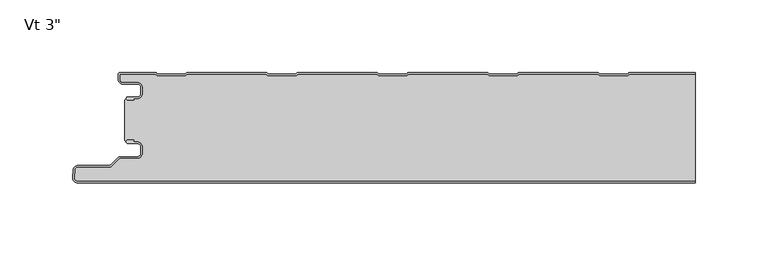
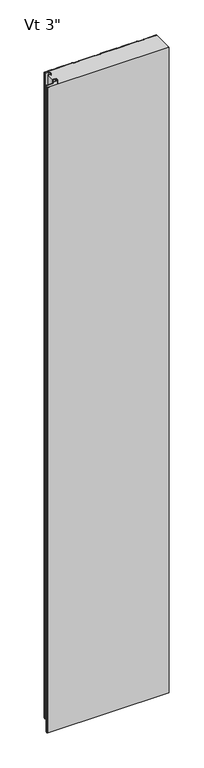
"""IFC4 building model written with IfcOpenShell, lengths in millimetres: plate geometry."""

from ifc_helpers import new_model, si_unit, point, frame, frame_2d, origin, origin_with_axes, place, context, project, spatial, polyline, circle_curve, trimmed, segment, composite_curve, outline, extrude, source, transform, mapped, element, save
from ifc_brep_helpers import plane_surface, cylinder_surface, revolved_surface, advanced_brep


def plate_3ed67b4f(model_context):
    return source(origin(), model_context, "Body", "SolidModel", [
        advanced_brep(
        [(-194.5686911, -17.001516, 2400.0), (-195.5686883, -18.0015192, 2400.0), (-194.5686911, -19.0015105, 2400.0), (-190.5684874, -19.0015105, 2400.0), (-190.5684874, -18.001516, 2400.0), (-187.8762776, -18.001516, 2400.0), (-184.5762819, -14.7015203, 2400.0), (-184.5762819, -10.3015291, 2400.0), (-187.8762774, -7.0015336, 2400.0), (-198.2962563, -7.0015336, 2400.0), (-200.0662505, -5.2315394, 2400.0), (-200.0662505, -0.9999917, 2400.0), (-175.5659739, -0.9999917, 2400.0), (-174.1803313, -2.2002307, 2400.0), (-154.805165, -2.2002307, 2400.0), (-153.419532, -1.0, 2400.0), (-99.3661167, -0.9999999, 2400.0), (-97.9804837, -2.2002306, 2400.0), (-78.6053174, -2.2002306, 2400.0), (-77.2196844, -0.9999999, 2400.0), (-23.1662691, -0.9999998, 2400.0), (-21.7806361, -2.2002305, 2400.0), (-2.4054698, -2.2002304, 2400.0), (-1.0198368, -0.9999997, 2400.0), (53.0335785, -0.9999996, 2400.0), (54.4192115, -2.2002303, 2400.0), (73.7943778, -2.2002303, 2400.0), (75.1800108, -0.9999996, 2400.0), (129.2334261, -0.9999995, 2400.0), (130.6190591, -2.2002302, 2400.0), (149.9942254, -2.2002302, 2400.0), (151.3798584, -0.9999995, 2400.0), (196.5999998, -0.9999994, 2400.0), (196.5999998, 6e-07, 2400.0), (151.5290095, 5e-07, 2400.0), (150.6123926, -0.341788, 2400.0), (149.621345, -1.2002302, 2400.0), (130.9919395, -1.2002302, 2400.0), (130.0008919, -0.341788, 2400.0), (129.084275, 5e-07, 2400.0), (75.3291619, 4e-07, 2400.0), (74.412545, -0.3417881, 2400.0), (73.4214974, -1.2002303, 2400.0), (54.7920919, -1.2002303, 2400.0), (53.8010443, -0.3417881, 2400.0), (52.8844274, 4e-07, 2400.0), (-0.8706857, 3e-07, 2400.0), (-1.7873026, -0.3417882, 2400.0), (-2.7783502, -1.2002304, 2400.0), (-21.4077557, -1.2002305, 2400.0), (-22.3988033, -0.3417883, 2400.0), (-23.3154202, 2e-07, 2400.0), (-77.0705333, 1e-07, 2400.0), (-77.9871502, -0.3417884, 2400.0), (-78.9781978, -1.2002306, 2400.0), (-97.6076033, -1.2002306, 2400.0), (-98.5986509, -0.3417884, 2400.0), (-99.5152678, 1e-07, 2400.0), (-153.2703809, 0.0, 2400.0), (-154.1869978, -0.3417885, 2400.0), (-155.1780454, -1.2002307, 2400.0), (-173.8074509, -1.2002307, 2400.0), (-174.7984985, -0.3417885, 2400.0), (-175.7152068, 0.0, 2400.0), (-199.6662544, 8.3e-06, 2400.0), (-201.0662505, -1.3999879, 2400.0), (-201.0662505, -5.2315394, 2400.0), (-198.2962563, -8.0015336, 2400.0), (-187.8762774, -8.0015336, 2400.0), (-185.5762819, -10.3015291, 2400.0), (-185.5762819, -14.7015203, 2400.0), (-187.8762776, -17.001516, 2400.0), (-194.5686911, -17.001516, 0.0), (-187.8762776, -17.001516, 0.0), (-185.5762819, -14.7015203, 0.0), (-185.5762819, -10.3015291, 0.0), (-187.8762774, -8.0015336, 0.0), (-198.2962563, -8.0015336, 0.0), (-201.0662505, -5.2315394, 0.0), (-201.0662505, -1.3999879, 0.0), (-199.6662544, 8.3e-06, 0.0), (-175.7151154, 8.3e-06, 0.0), (-174.7984985, -0.3417885, 0.0), (-173.8074509, -1.2002307, 0.0), (-155.1780454, -1.2002307, 0.0), (-154.1869978, -0.3417885, 0.0), (-153.2703809, 0.0, 0.0), (-99.5152678, 1e-07, 0.0), (-98.5986509, -0.3417884, 0.0), (-97.6076033, -1.2002306, 0.0), (-78.9781978, -1.2002306, 0.0), (-77.9871502, -0.3417884, 0.0), (-77.0705333, 1e-07, 0.0), (-23.3154202, 2e-07, 0.0), (-22.3988033, -0.3417883, 0.0), (-21.4077557, -1.2002305, 0.0), (-2.7783502, -1.2002304, 0.0), (-1.7873026, -0.3417882, 0.0), (-0.8706857, 3e-07, 0.0), (52.8844274, 4e-07, 0.0), (53.8010443, -0.3417881, 0.0), (54.7920919, -1.2002303, 0.0), (73.4214974, -1.2002303, 0.0), (74.412545, -0.3417881, 0.0), (75.3291619, 4e-07, 0.0), (129.084275, 5e-07, 0.0), (130.0008919, -0.341788, 0.0), (130.9919395, -1.2002302, 0.0), (149.621345, -1.2002302, 0.0), (150.6123926, -0.341788, 0.0), (151.5290095, 5e-07, 0.0), (196.5999998, 6e-07, 0.0), (196.5999998, -0.9999994, 0.0), (151.3798584, -0.9999995, 0.0), (149.9942254, -2.2002302, 0.0), (130.6190591, -2.2002302, 0.0), (129.2334261, -0.9999995, 0.0), (75.1800108, -0.9999996, 0.0), (73.7943778, -2.2002303, 0.0), (54.4192115, -2.2002303, 0.0), (53.0335785, -0.9999996, 0.0), (-1.0198368, -0.9999997, 0.0), (-2.4054698, -2.2002304, 0.0), (-21.7806361, -2.2002305, 0.0), (-23.1662691, -0.9999998, 0.0), (-77.2196844, -0.9999999, 0.0), (-78.6053174, -2.2002306, 0.0), (-97.9804837, -2.2002306, 0.0), (-99.3661167, -0.9999999, 0.0), (-153.419532, -1.0, 0.0), (-154.805165, -2.2002307, 0.0), (-174.1803313, -2.2002307, 0.0), (-175.5659739, -0.9999917, 0.0), (-200.0662505, -0.9999917, 0.0), (-200.0662505, -5.2315394, 0.0), (-198.2962563, -7.0015336, 0.0), (-187.8762774, -7.0015336, 0.0), (-184.5762819, -10.3015291, 0.0), (-184.5762819, -14.7015203, 0.0), (-187.8762776, -18.001516, 0.0), (-190.5684874, -18.001516, 0.0), (-190.5684874, -19.0015105, 0.0), (-194.5686911, -19.0015105, 0.0), (-195.5686883, -18.0015193, 0.0)],
        [
            (0, 1, circle_curve(frame((-194.5686911, -18.0015133, 2400.0), z_axis=(0.0, 0.0, 1.0), x_axis=(1.0, 1.7886125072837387e-09, 0.0)), 0.9999973)),
            (1, 2, circle_curve(frame((-194.5686911, -18.0015133, 2400.0), z_axis=(0.0, 0.0, 1.0), x_axis=(1.0, 1.7886125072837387e-09, 0.0)), 0.9999972)),
            (2, 3),
            (3, 4),
            (4, 5),
            (5, 6, circle_curve(frame((-187.8762776, -14.7015203, 2400.0), z_axis=(0.0, 0.0, 1.0), x_axis=(1.0, 1.7886125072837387e-09, 0.0)), 3.2999957)),
            (6, 7),
            (7, 8, circle_curve(frame((-187.8762774, -10.3015291, 2400.0), z_axis=(0.0, 0.0, 1.0), x_axis=(1.0, 1.7886125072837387e-09, 0.0)), 3.2999955)),
            (8, 9),
            (9, 10, circle_curve(frame((-198.2962563, -5.2315394, 2400.0), z_axis=(0.0, 0.0, -1.0), x_axis=(1.0, 1.7886125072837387e-09, 0.0)), 1.7699942)),
            (10, 11),
            (11, 12),
            (12, 13),
            (13, 14),
            (14, 15),
            (15, 16),
            (16, 17),
            (17, 18),
            (18, 19),
            (19, 20),
            (20, 21),
            (21, 22),
            (22, 23),
            (23, 24),
            (24, 25),
            (25, 26),
            (26, 27),
            (27, 28),
            (28, 29),
            (29, 30),
            (30, 31),
            (31, 32),
            (32, 33),
            (33, 34),
            (34, 35, circle_curve(frame((151.5290095, -1.3999967, 2400.0), z_axis=(0.0, 0.0, 1.0), x_axis=(1.0, 1.7886125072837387e-09, 0.0)), 1.3999972)),
            (35, 36),
            (36, 37),
            (37, 38),
            (38, 39, circle_curve(frame((129.084275, -1.3999967, 2400.0), z_axis=(0.0, 0.0, 1.0), x_axis=(1.0, 1.7886125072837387e-09, 0.0)), 1.3999972)),
            (39, 40),
            (40, 41, circle_curve(frame((75.3291619, -1.3999968, 2400.0), z_axis=(0.0, 0.0, 1.0), x_axis=(1.0, 1.7886125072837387e-09, 0.0)), 1.3999972)),
            (41, 42),
            (42, 43),
            (43, 44),
            (44, 45, circle_curve(frame((52.8844274, -1.3999968, 2400.0), z_axis=(0.0, 0.0, 1.0), x_axis=(1.0, 1.7886125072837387e-09, 0.0)), 1.3999972)),
            (45, 46),
            (46, 47, circle_curve(frame((-0.8706857, -1.3999969, 2400.0), z_axis=(0.0, 0.0, 1.0), x_axis=(1.0, 1.7886125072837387e-09, 0.0)), 1.3999972)),
            (47, 48),
            (48, 49),
            (49, 50),
            (50, 51, circle_curve(frame((-23.3154202, -1.399997, 2400.0), z_axis=(0.0, 0.0, 1.0), x_axis=(1.0, 1.7886125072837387e-09, 0.0)), 1.3999972)),
            (51, 52),
            (52, 53, circle_curve(frame((-77.0705333, -1.3999971, 2400.0), z_axis=(0.0, 0.0, 1.0), x_axis=(1.0, 1.7886125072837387e-09, 0.0)), 1.3999972)),
            (53, 54),
            (54, 55),
            (55, 56),
            (56, 57, circle_curve(frame((-99.5152678, -1.3999971, 2400.0), z_axis=(0.0, 0.0, 1.0), x_axis=(1.0, 1.7886125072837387e-09, 0.0)), 1.3999972)),
            (57, 58),
            (58, 59, circle_curve(frame((-153.2703809, -1.3999972, 2400.0), z_axis=(0.0, 0.0, 1.0), x_axis=(1.0, 1.7886125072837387e-09, 0.0)), 1.3999972)),
            (59, 60),
            (60, 61),
            (61, 62),
            (62, 63, circle_curve(frame((-175.7151154, -1.3999972, 2400.0), z_axis=(0.0, 0.0, 1.0), x_axis=(1.0, 1.7886125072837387e-09, 0.0)), 1.3999972)),
            (63, 64),
            (64, 65, circle_curve(frame((-199.6662544, -1.3999879, 2400.0), z_axis=(0.0, 0.0, 1.0), x_axis=(1.0, 1.7886125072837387e-09, 0.0)), 1.3999962)),
            (65, 66),
            (66, 67, circle_curve(frame((-198.2962563, -5.2315394, 2400.0), z_axis=(0.0, 0.0, 1.0), x_axis=(1.0, 1.7886125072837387e-09, 0.0)), 2.7699942)),
            (67, 68),
            (68, 69, circle_curve(frame((-187.8762774, -10.3015291, 2400.0), z_axis=(0.0, 0.0, -1.0), x_axis=(1.0, 1.7886125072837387e-09, 0.0)), 2.2999955)),
            (69, 70),
            (70, 71, circle_curve(frame((-187.8762776, -14.7015203, 2400.0), z_axis=(0.0, 0.0, -1.0), x_axis=(1.0, 1.7886125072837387e-09, 0.0)), 2.2999957)),
            (71, 0),
            (72, 73),
            (73, 74, circle_curve(frame((-187.8762776, -14.7015203, 0.0), z_axis=(0.0, 0.0, 1.0), x_axis=(1.0, 1.7886125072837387e-09, 0.0)), 2.2999957)),
            (74, 75),
            (75, 76, circle_curve(frame((-187.8762774, -10.3015291, 0.0), z_axis=(0.0, 0.0, 1.0), x_axis=(1.0, 1.7886125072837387e-09, 0.0)), 2.2999955)),
            (76, 77),
            (77, 78, circle_curve(frame((-198.2962563, -5.2315394, 0.0), z_axis=(0.0, 0.0, -1.0), x_axis=(1.0, 1.7886125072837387e-09, 0.0)), 2.7699942)),
            (78, 79),
            (79, 80, circle_curve(frame((-199.6662544, -1.3999879, 0.0), z_axis=(0.0, 0.0, -1.0), x_axis=(1.0, 1.7886125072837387e-09, 0.0)), 1.3999962)),
            (80, 81),
            (81, 82, circle_curve(frame((-175.7151154, -1.3999972, 0.0), z_axis=(0.0, 0.0, -1.0), x_axis=(1.0, 1.7886125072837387e-09, 0.0)), 1.3999972)),
            (82, 83),
            (83, 84),
            (84, 85),
            (85, 86, circle_curve(frame((-153.2703809, -1.3999972, 0.0), z_axis=(0.0, 0.0, -1.0), x_axis=(1.0, 1.7886125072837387e-09, 0.0)), 1.3999972)),
            (86, 87),
            (87, 88, circle_curve(frame((-99.5152678, -1.3999971, 0.0), z_axis=(0.0, 0.0, -1.0), x_axis=(1.0, 1.7886125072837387e-09, 0.0)), 1.3999972)),
            (88, 89),
            (89, 90),
            (90, 91),
            (91, 92, circle_curve(frame((-77.0705333, -1.3999971, 0.0), z_axis=(0.0, 0.0, -1.0), x_axis=(1.0, 1.7886125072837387e-09, 0.0)), 1.3999972)),
            (92, 93),
            (93, 94, circle_curve(frame((-23.3154202, -1.399997, 0.0), z_axis=(0.0, 0.0, -1.0), x_axis=(1.0, 1.7886125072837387e-09, 0.0)), 1.3999972)),
            (94, 95),
            (95, 96),
            (96, 97),
            (97, 98, circle_curve(frame((-0.8706857, -1.3999969, 0.0), z_axis=(0.0, 0.0, -1.0), x_axis=(1.0, 1.7886125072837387e-09, 0.0)), 1.3999972)),
            (98, 99),
            (99, 100, circle_curve(frame((52.8844274, -1.3999968, 0.0), z_axis=(0.0, 0.0, -1.0), x_axis=(1.0, 1.7886125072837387e-09, 0.0)), 1.3999972)),
            (100, 101),
            (101, 102),
            (102, 103),
            (103, 104, circle_curve(frame((75.3291619, -1.3999968, 0.0), z_axis=(0.0, 0.0, -1.0), x_axis=(1.0, 1.7886125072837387e-09, 0.0)), 1.3999972)),
            (104, 105),
            (105, 106, circle_curve(frame((129.084275, -1.3999967, 0.0), z_axis=(0.0, 0.0, -1.0), x_axis=(1.0, 1.7886125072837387e-09, 0.0)), 1.3999972)),
            (106, 107),
            (107, 108),
            (108, 109),
            (109, 110, circle_curve(frame((151.5290095, -1.3999967, 0.0), z_axis=(0.0, 0.0, -1.0), x_axis=(1.0, 1.7886125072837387e-09, 0.0)), 1.3999972)),
            (110, 111),
            (111, 112),
            (112, 113),
            (113, 114),
            (114, 115),
            (115, 116),
            (116, 117),
            (117, 118),
            (118, 119),
            (119, 120),
            (120, 121),
            (121, 122),
            (122, 123),
            (123, 124),
            (124, 125),
            (125, 126),
            (126, 127),
            (127, 128),
            (128, 129),
            (129, 130),
            (130, 131),
            (131, 132),
            (132, 133),
            (133, 134),
            (134, 135, circle_curve(frame((-198.2962563, -5.2315394, 0.0), z_axis=(0.0, 0.0, 1.0), x_axis=(1.0, 1.7886125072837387e-09, 0.0)), 1.7699942)),
            (135, 136),
            (136, 137, circle_curve(frame((-187.8762774, -10.3015291, 0.0), z_axis=(0.0, 0.0, -1.0), x_axis=(1.0, 1.7886125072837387e-09, 0.0)), 3.2999955)),
            (137, 138),
            (138, 139, circle_curve(frame((-187.8762776, -14.7015203, 0.0), z_axis=(0.0, 0.0, -1.0), x_axis=(1.0, 1.7886125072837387e-09, 0.0)), 3.2999957)),
            (139, 140),
            (140, 141),
            (141, 142),
            (142, 143, circle_curve(frame((-194.5686911, -18.0015133, 0.0), z_axis=(0.0, 0.0, -1.0), x_axis=(1.0, 1.7886125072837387e-09, 0.0)), 0.9999972)),
            (143, 72, circle_curve(frame((-194.5686911, -18.0015133, 0.0), z_axis=(0.0, 0.0, -1.0), x_axis=(1.0, 1.7886125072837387e-09, 0.0)), 0.9999973)),
            (32, 112),
            (111, 33),
            (71, 73),
            (72, 0),
            (70, 74),
            (69, 75),
            (68, 76),
            (67, 77),
            (66, 78),
            (65, 79),
            (64, 80),
            (63, 81),
            (62, 82),
            (61, 83),
            (60, 84),
            (59, 85),
            (58, 86),
            (57, 87),
            (56, 88),
            (55, 89),
            (54, 90),
            (53, 91),
            (52, 92),
            (51, 93),
            (50, 94),
            (49, 95),
            (48, 96),
            (47, 97),
            (46, 98),
            (45, 99),
            (44, 100),
            (43, 101),
            (42, 102),
            (41, 103),
            (40, 104),
            (39, 105),
            (38, 106),
            (37, 107),
            (36, 108),
            (35, 109),
            (34, 110),
            (31, 113),
            (30, 114),
            (29, 115),
            (28, 116),
            (27, 117),
            (26, 118),
            (25, 119),
            (24, 120),
            (23, 121),
            (22, 122),
            (21, 123),
            (20, 124),
            (19, 125),
            (18, 126),
            (17, 127),
            (16, 128),
            (15, 129),
            (14, 130),
            (13, 131),
            (12, 132),
            (11, 133),
            (10, 134),
            (9, 135),
            (8, 136),
            (7, 137),
            (6, 138),
            (5, 139),
            (4, 140),
            (3, 141),
            (2, 142),
            (1, 143),
        ],
        [
            plane_surface(frame((336.8000001, 9e-07, 2400.0), z_axis=(0.0, 0.0, 1.0), x_axis=(-1.7886125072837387e-09, 1.0, 0.0))),
            plane_surface(frame((336.8000001, 9e-07, 0.0), z_axis=(0.0, 0.0, -1.0), x_axis=(-1.7886125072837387e-09, 1.0, 0.0))),
            plane_surface(frame((196.5999999, -86.1999994, 2400.0), z_axis=(1.0, 1.7886125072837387e-09, 0.0), x_axis=(0.0, 0.0, -1.0))),
            plane_surface(frame((-194.5686911, -17.001516, 2400.0), z_axis=(-1.7886125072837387e-09, 1.0, 0.0), x_axis=(0.0, 0.0, -1.0))),
            revolved_surface(polyline([(-185.5762819, -14.7015202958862, 0.0), (-185.5762819, -14.7015202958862, 2400.0)]), (-187.8762776, -14.7015203, 2400.0), (0.0, 0.0, -1.0)),
            plane_surface(frame((-185.5762819, -14.7015203, 2400.0), z_axis=(-1.0, -1.7886125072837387e-09, 0.0), x_axis=(0.0, 0.0, -1.0))),
            revolved_surface(polyline([(-185.5762819, -10.301529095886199, 0.0), (-185.5762819, -10.301529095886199, 2400.0)]), (-187.8762774, -10.3015291, 2400.0), (0.0, 0.0, -1.0)),
            plane_surface(frame((-187.8762774, -8.0015336, 2400.0), z_axis=(1.7886125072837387e-09, -1.0, 0.0), x_axis=(0.0, 0.0, -1.0))),
            cylinder_surface(frame((-198.2962563, -5.2315394, 2400.0), z_axis=(0.0, 0.0, 1.0), x_axis=(1.0, 1.7886125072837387e-09, 0.0)), 2.7699942),
            plane_surface(frame((-201.0662505, -5.2315394, 2400.0), z_axis=(-1.0, -1.7886125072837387e-09, 0.0), x_axis=(0.0, 0.0, -1.0))),
            cylinder_surface(frame((-199.6662544, -1.3999879, 2400.0), z_axis=(0.0, 0.0, 1.0), x_axis=(1.0, 1.7886125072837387e-09, 0.0)), 1.3999962),
            plane_surface(frame((-199.6662544, 8.3e-06, 2400.0), z_axis=(-1.7886125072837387e-09, 1.0, 0.0), x_axis=(0.0, 0.0, -1.0))),
            cylinder_surface(frame((-175.7151154, -1.3999972, 2400.0), z_axis=(0.0, 0.0, 1.0), x_axis=(1.0, 1.7886125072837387e-09, 0.0)), 1.3999972),
            plane_surface(frame((-174.7984985, -0.3417885, 2400.0), z_axis=(0.6547276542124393, 0.755864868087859, 0.0), x_axis=(0.0, 0.0, -1.0))),
            plane_surface(frame((-164.4927482, -1.2002307, 2400.0), z_axis=(-1.7886125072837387e-09, 1.0, 0.0), x_axis=(0.0, 0.0, -1.0))),
            plane_surface(frame((-155.1780454, -1.2002307, 2400.0), z_axis=(-0.6547276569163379, 0.755864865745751, 0.0), x_axis=(0.0, 0.0, -1.0))),
            cylinder_surface(frame((-153.2703809, -1.3999972, 2400.0), z_axis=(0.0, 0.0, 1.0), x_axis=(1.0, 1.7886125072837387e-09, 0.0)), 1.3999972),
            plane_surface(frame((-153.2703809, 0.0, 2400.0), z_axis=(-1.7886074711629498e-09, 1.0, 0.0), x_axis=(0.0, 0.0, -1.0))),
            cylinder_surface(frame((-99.5152678, -1.3999971, 2400.0), z_axis=(0.0, 0.0, 1.0), x_axis=(1.0, 1.7886125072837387e-09, 0.0)), 1.3999972),
            plane_surface(frame((-98.5986509, -0.3417884, 2400.0), z_axis=(0.6547276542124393, 0.755864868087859, 0.0), x_axis=(0.0, 0.0, -1.0))),
            plane_surface(frame((-88.2929006, -1.2002306, 2400.0), z_axis=(-1.7886125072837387e-09, 1.0, 0.0), x_axis=(0.0, 0.0, -1.0))),
            plane_surface(frame((-78.9781978, -1.2002306, 2400.0), z_axis=(-0.6547276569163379, 0.755864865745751, 0.0), x_axis=(0.0, 0.0, -1.0))),
            cylinder_surface(frame((-77.0705333, -1.3999971, 2400.0), z_axis=(0.0, 0.0, 1.0), x_axis=(1.0, 1.7886125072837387e-09, 0.0)), 1.3999972),
            plane_surface(frame((-77.0705333, 1e-07, 2400.0), z_axis=(-1.7886074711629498e-09, 1.0, 0.0), x_axis=(0.0, 0.0, -1.0))),
            cylinder_surface(frame((-23.3154202, -1.399997, 2400.0), z_axis=(0.0, 0.0, 1.0), x_axis=(1.0, 1.7886125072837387e-09, 0.0)), 1.3999972),
            plane_surface(frame((-22.3988033, -0.3417883, 2400.0), z_axis=(0.6547276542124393, 0.755864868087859, 0.0), x_axis=(0.0, 0.0, -1.0))),
            plane_surface(frame((-12.093053, -1.2002305, 2400.0), z_axis=(-1.7886125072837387e-09, 1.0, 0.0), x_axis=(0.0, 0.0, -1.0))),
            plane_surface(frame((-2.7783502, -1.2002304, 2400.0), z_axis=(-0.6547276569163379, 0.755864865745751, 0.0), x_axis=(0.0, 0.0, -1.0))),
            cylinder_surface(frame((-0.8706857, -1.3999969, 2400.0), z_axis=(0.0, 0.0, 1.0), x_axis=(1.0, 1.7886125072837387e-09, 0.0)), 1.3999972),
            plane_surface(frame((-0.8706857, 3e-07, 2400.0), z_axis=(-1.7886074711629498e-09, 1.0, 0.0), x_axis=(0.0, 0.0, -1.0))),
            cylinder_surface(frame((52.8844274, -1.3999968, 2400.0), z_axis=(0.0, 0.0, 1.0), x_axis=(1.0, 1.7886125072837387e-09, 0.0)), 1.3999972),
            plane_surface(frame((53.8010443, -0.3417881, 2400.0), z_axis=(0.6547276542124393, 0.755864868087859, 0.0), x_axis=(0.0, 0.0, -1.0))),
            plane_surface(frame((64.1067946, -1.2002303, 2400.0), z_axis=(-1.7886125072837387e-09, 1.0, 0.0), x_axis=(0.0, 0.0, -1.0))),
            plane_surface(frame((73.4214974, -1.2002303, 2400.0), z_axis=(-0.6547276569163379, 0.755864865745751, 0.0), x_axis=(0.0, 0.0, -1.0))),
            cylinder_surface(frame((75.3291619, -1.3999968, 2400.0), z_axis=(0.0, 0.0, 1.0), x_axis=(1.0, 1.7886125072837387e-09, 0.0)), 1.3999972),
            plane_surface(frame((75.3291619, 4e-07, 2400.0), z_axis=(-1.7886074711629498e-09, 1.0, 0.0), x_axis=(0.0, 0.0, -1.0))),
            cylinder_surface(frame((129.084275, -1.3999967, 2400.0), z_axis=(0.0, 0.0, 1.0), x_axis=(1.0, 1.7886125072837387e-09, 0.0)), 1.3999972),
            plane_surface(frame((130.0008919, -0.341788, 2400.0), z_axis=(0.6547276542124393, 0.755864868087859, 0.0), x_axis=(0.0, 0.0, -1.0))),
            plane_surface(frame((140.3066422, -1.2002302, 2400.0), z_axis=(-1.7886125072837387e-09, 1.0, 0.0), x_axis=(0.0, 0.0, -1.0))),
            plane_surface(frame((149.621345, -1.2002302, 2400.0), z_axis=(-0.6547276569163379, 0.755864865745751, 0.0), x_axis=(0.0, 0.0, -1.0))),
            cylinder_surface(frame((151.5290095, -1.3999967, 2400.0), z_axis=(0.0, 0.0, 1.0), x_axis=(1.0, 1.7886125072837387e-09, 0.0)), 1.3999972),
            plane_surface(frame((151.5290095, 5e-07, 2400.0), z_axis=(-1.7886074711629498e-09, 1.0, 0.0), x_axis=(0.0, 0.0, -1.0))),
            plane_surface(frame((205.4332737, -0.9999994, 2400.0), z_axis=(1.7886074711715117e-09, -1.0, 0.0), x_axis=(0.0, 0.0, -1.0))),
            plane_surface(frame((151.3798584, -0.9999995, 2400.0), z_axis=(0.6547276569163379, -0.755864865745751, 0.0), x_axis=(0.0, 0.0, -1.0))),
            plane_surface(frame((149.9942254, -2.2002302, 2400.0), z_axis=(1.7886125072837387e-09, -1.0, 0.0), x_axis=(0.0, 0.0, -1.0))),
            plane_surface(frame((130.6190591, -2.2002302, 2400.0), z_axis=(-0.6547276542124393, -0.755864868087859, 0.0), x_axis=(0.0, 0.0, -1.0))),
            plane_surface(frame((129.2334261, -0.9999995, 2400.0), z_axis=(1.7886074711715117e-09, -1.0, 0.0), x_axis=(0.0, 0.0, -1.0))),
            plane_surface(frame((75.1800108, -0.9999996, 2400.0), z_axis=(0.6547276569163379, -0.755864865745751, 0.0), x_axis=(0.0, 0.0, -1.0))),
            plane_surface(frame((73.7943778, -2.2002303, 2400.0), z_axis=(1.7886125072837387e-09, -1.0, 0.0), x_axis=(0.0, 0.0, -1.0))),
            plane_surface(frame((54.4192115, -2.2002303, 2400.0), z_axis=(-0.6547276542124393, -0.755864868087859, 0.0), x_axis=(0.0, 0.0, -1.0))),
            plane_surface(frame((53.0335785, -0.9999996, 2400.0), z_axis=(1.7886074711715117e-09, -1.0, 0.0), x_axis=(0.0, 0.0, -1.0))),
            plane_surface(frame((-1.0198368, -0.9999997, 2400.0), z_axis=(0.6547276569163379, -0.755864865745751, 0.0), x_axis=(0.0, 0.0, -1.0))),
            plane_surface(frame((-2.4054698, -2.2002304, 2400.0), z_axis=(1.7886125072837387e-09, -1.0, 0.0), x_axis=(0.0, 0.0, -1.0))),
            plane_surface(frame((-21.7806361, -2.2002305, 2400.0), z_axis=(-0.6547276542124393, -0.755864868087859, 0.0), x_axis=(0.0, 0.0, -1.0))),
            plane_surface(frame((-23.1662691, -0.9999998, 2400.0), z_axis=(1.7886074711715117e-09, -1.0, 0.0), x_axis=(0.0, 0.0, -1.0))),
            plane_surface(frame((-77.2196844, -0.9999999, 2400.0), z_axis=(0.6547276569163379, -0.755864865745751, 0.0), x_axis=(0.0, 0.0, -1.0))),
            plane_surface(frame((-78.6053174, -2.2002306, 2400.0), z_axis=(1.7886125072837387e-09, -1.0, 0.0), x_axis=(0.0, 0.0, -1.0))),
            plane_surface(frame((-97.9804837, -2.2002306, 2400.0), z_axis=(-0.6547276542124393, -0.755864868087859, 0.0), x_axis=(0.0, 0.0, -1.0))),
            plane_surface(frame((-99.3661167, -0.9999999, 2400.0), z_axis=(1.7886074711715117e-09, -1.0, 0.0), x_axis=(0.0, 0.0, -1.0))),
            plane_surface(frame((-153.419532, -1.0, 2400.0), z_axis=(0.6547276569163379, -0.755864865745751, 0.0), x_axis=(0.0, 0.0, -1.0))),
            plane_surface(frame((-154.805165, -2.2002307, 2400.0), z_axis=(1.7886125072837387e-09, -1.0, 0.0), x_axis=(0.0, 0.0, -1.0))),
            plane_surface(frame((-174.1803313, -2.2002307, 2400.0), z_axis=(-0.6547276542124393, -0.755864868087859, 0.0), x_axis=(0.0, 0.0, -1.0))),
            plane_surface(frame((-175.5659739, -0.9999917, 2400.0), z_axis=(1.7886125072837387e-09, -1.0, 0.0), x_axis=(0.0, 0.0, -1.0))),
            plane_surface(frame((-200.0662505, -0.9999917, 2400.0), z_axis=(1.0, 1.7886125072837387e-09, 0.0), x_axis=(0.0, 0.0, -1.0))),
            revolved_surface(polyline([(-196.5262621, -5.231539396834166, 0.0), (-196.5262621, -5.231539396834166, 2400.0)]), (-198.2962563, -5.2315394, 2400.0), (0.0, 0.0, -1.0)),
            plane_surface(frame((-198.2962563, -7.0015336, 2400.0), z_axis=(-1.7886125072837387e-09, 1.0, 0.0), x_axis=(0.0, 0.0, -1.0))),
            cylinder_surface(frame((-187.8762774, -10.3015291, 2400.0), z_axis=(0.0, 0.0, 1.0), x_axis=(1.0, 1.7886125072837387e-09, 0.0)), 3.2999955),
            plane_surface(frame((-184.5762819, -10.3015291, 2400.0), z_axis=(1.0, 1.7886125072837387e-09, 0.0), x_axis=(0.0, 0.0, -1.0))),
            cylinder_surface(frame((-187.8762776, -14.7015203, 2400.0), z_axis=(0.0, 0.0, 1.0), x_axis=(1.0, 1.7886125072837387e-09, 0.0)), 3.2999957),
            plane_surface(frame((-187.8762776, -18.001516, 2400.0), z_axis=(1.7886125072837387e-09, -1.0, 0.0), x_axis=(0.0, 0.0, -1.0))),
            plane_surface(frame((-190.5684874, -18.001516, 2400.0), z_axis=(1.0, 1.7886125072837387e-09, 0.0), x_axis=(0.0, 0.0, -1.0))),
            plane_surface(frame((-190.5684874, -19.0015105, 2400.0), z_axis=(1.7886125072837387e-09, -1.0, 0.0), x_axis=(0.0, 0.0, -1.0))),
            cylinder_surface(frame((-194.5686911, -18.0015133, 2400.0), z_axis=(0.0, 0.0, 1.0), x_axis=(1.0, 1.7886125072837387e-09, 0.0)), 0.9999972),
            cylinder_surface(frame((-194.5686911, -18.0015133, 2400.0), z_axis=(0.0, 0.0, 1.0), x_axis=(1.0, 1.7886125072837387e-09, 0.0)), 0.9999973),
        ],
        [
            (0, [[1, 2, 3, 4, 5, 6, 7, 8, 9, 10, 11, 12, 13, 14, 15, 16, 17, 18, 19, 20, 21, 22, 23, 24, 25, 26, 27, 28, 29, 30, 31, 32, 33, 34, 35, 36, 37, 38, 39, 40, 41, 42, 43, 44, 45, 46, 47, 48, 49, 50, 51, 52, 53, 54, 55, 56, 57, 58, 59, 60, 61, 62, 63, 64, 65, 66, 67, 68, 69, 70, 71, 72]]),
            (1, [[73, 74, 75, 76, 77, 78, 79, 80, 81, 82, 83, 84, 85, 86, 87, 88, 89, 90, 91, 92, 93, 94, 95, 96, 97, 98, 99, 100, 101, 102, 103, 104, 105, 106, 107, 108, 109, 110, 111, 112, 113, 114, 115, 116, 117, 118, 119, 120, 121, 122, 123, 124, 125, 126, 127, 128, 129, 130, 131, 132, 133, 134, 135, 136, 137, 138, 139, 140, 141, 142, 143, 144]]),
            (2, [[145, -112, 146, -33]]),
            (3, [[147, -73, 148, -72]]),
            (4, [[149, -74, -147, -71]]),
            (5, [[150, -75, -149, -70]]),
            (6, [[151, -76, -150, -69]]),
            (7, [[152, -77, -151, -68]]),
            (8, [[153, -78, -152, -67]]),
            (9, [[154, -79, -153, -66]]),
            (10, [[155, -80, -154, -65]]),
            (11, [[156, -81, -155, -64]]),
            (12, [[157, -82, -156, -63]]),
            (13, [[158, -83, -157, -62]]),
            (14, [[159, -84, -158, -61]]),
            (15, [[160, -85, -159, -60]]),
            (16, [[161, -86, -160, -59]]),
            (17, [[162, -87, -161, -58]]),
            (18, [[163, -88, -162, -57]]),
            (19, [[164, -89, -163, -56]]),
            (20, [[165, -90, -164, -55]]),
            (21, [[166, -91, -165, -54]]),
            (22, [[167, -92, -166, -53]]),
            (23, [[168, -93, -167, -52]]),
            (24, [[169, -94, -168, -51]]),
            (25, [[170, -95, -169, -50]]),
            (26, [[171, -96, -170, -49]]),
            (27, [[172, -97, -171, -48]]),
            (28, [[173, -98, -172, -47]]),
            (29, [[174, -99, -173, -46]]),
            (30, [[175, -100, -174, -45]]),
            (31, [[176, -101, -175, -44]]),
            (32, [[177, -102, -176, -43]]),
            (33, [[178, -103, -177, -42]]),
            (34, [[179, -104, -178, -41]]),
            (35, [[180, -105, -179, -40]]),
            (36, [[181, -106, -180, -39]]),
            (37, [[182, -107, -181, -38]]),
            (38, [[183, -108, -182, -37]]),
            (39, [[184, -109, -183, -36]]),
            (40, [[185, -110, -184, -35]]),
            (41, [[-34, -146, -111, -185]]),
            (42, [[-113, -145, -32, 186]]),
            (43, [[187, -114, -186, -31]]),
            (44, [[188, -115, -187, -30]]),
            (45, [[189, -116, -188, -29]]),
            (46, [[190, -117, -189, -28]]),
            (47, [[191, -118, -190, -27]]),
            (48, [[192, -119, -191, -26]]),
            (49, [[193, -120, -192, -25]]),
            (50, [[194, -121, -193, -24]]),
            (51, [[195, -122, -194, -23]]),
            (52, [[196, -123, -195, -22]]),
            (53, [[197, -124, -196, -21]]),
            (54, [[198, -125, -197, -20]]),
            (55, [[199, -126, -198, -19]]),
            (56, [[200, -127, -199, -18]]),
            (57, [[201, -128, -200, -17]]),
            (58, [[202, -129, -201, -16]]),
            (59, [[203, -130, -202, -15]]),
            (60, [[204, -131, -203, -14]]),
            (61, [[205, -132, -204, -13]]),
            (62, [[206, -133, -205, -12]]),
            (63, [[207, -134, -206, -11]]),
            (64, [[208, -135, -207, -10]]),
            (65, [[209, -136, -208, -9]]),
            (66, [[210, -137, -209, -8]]),
            (67, [[211, -138, -210, -7]]),
            (68, [[212, -139, -211, -6]]),
            (69, [[213, -140, -212, -5]]),
            (70, [[214, -141, -213, -4]]),
            (71, [[215, -142, -214, -3]]),
            (72, [[216, -143, -215, -2]]),
            (73, [[-148, -144, -216, -1]]),
        ],
    ),
        extrude(outline(composite_curve([segment(polyline([(-232.6087618, -72.3184904), (-232.1690673, -67.2944438)]), True, "CONTINUOUS"), segment(trimmed(circle_curve(frame_2d((-228.519839, -67.9052449)), 3.6999926), [point((-232.1690673, -67.2944438))], [point((-228.519839, -64.2052523))], False, "CARTESIAN"), True, "CONTINUOUS"), segment(polyline([(-228.519839, -64.2052523), (-207.3773995, -64.2052523)]), True, "CONTINUOUS"), segment(trimmed(circle_curve(frame_2d((-207.3773995, -62.9052549)), 1.2999974), [point((-207.3773995, -64.2052523))], [point((-206.4581625, -63.8244919))], True, "CARTESIAN"), True, "CONTINUOUS"), segment(polyline([(-206.4581625, -63.8244919), (-201.6297451, -58.9960744)]), True, "CONTINUOUS"), segment(trimmed(circle_curve(frame_2d((-199.7205606, -60.9052589)), 2.6999946), [point((-201.6297451, -58.9960744))], [point((-199.7205606, -58.2052643))], False, "CARTESIAN"), True, "CONTINUOUS"), segment(polyline([(-199.7205606, -58.2052643), (-187.9096715, -58.2052643)]), True, "CONTINUOUS"), segment(trimmed(circle_curve(frame_2d((-187.9096715, -55.855269)), 2.3499953), [point((-187.9096715, -58.2052643))], [point((-185.5596762, -55.855269))], True, "CARTESIAN"), True, "CONTINUOUS"), segment(polyline([(-185.5596762, -55.855269), (-185.5596762, -51.4552778)]), True, "CONTINUOUS"), segment(trimmed(circle_curve(frame_2d((-187.9096715, -51.4552778)), 2.3499953), [point((-185.5596762, -51.4552778))], [point((-187.9096715, -49.1052825))], True, "CARTESIAN"), True, "CONTINUOUS"), segment(polyline([(-187.9096715, -49.1052825), (-194.4289777, -49.1052825)]), True, "CONTINUOUS"), segment(trimmed(circle_curve(frame_2d((-194.3686906, -47.9068002)), 1.1999976), [point((-194.4289777, -49.1052825))], [point((-195.5683, -47.8762783))], False, "CARTESIAN"), True, "CONTINUOUS"), segment(trimmed(circle_curve(frame_2d((-194.3686906, -47.9068002)), 1.1999976), [point((-195.5683, -47.8762783))], [point((-194.367176, -46.7068036))], False, "CARTESIAN"), True, "CONTINUOUS"), segment(polyline([(-194.367176, -46.7068036), (-190.6087826, -46.7068036), (-190.6087826, -48.1052825), (-187.9096715, -48.1052825)]), True, "CONTINUOUS"), segment(trimmed(circle_curve(frame_2d((-187.9096715, -51.4552778)), 3.3499953), [point((-187.9096715, -48.1052825))], [point((-184.5596762, -51.4552778))], False, "CARTESIAN"), True, "CONTINUOUS"), segment(polyline([(-184.5596762, -51.4552778), (-184.5596762, -55.855269)]), True, "CONTINUOUS"), segment(trimmed(circle_curve(frame_2d((-187.9096715, -55.855269)), 3.3499953), [point((-184.5596762, -55.855269))], [point((-187.9096715, -59.2052643))], False, "CARTESIAN"), True, "CONTINUOUS"), segment(polyline([(-187.9096715, -59.2052643), (-199.7205606, -59.2052643)]), True, "CONTINUOUS"), segment(trimmed(circle_curve(frame_2d((-199.7205606, -60.9052589)), 1.6999946), [point((-199.7205606, -59.2052643))], [point((-200.9226383, -59.7031812))], True, "CARTESIAN"), True, "CONTINUOUS"), segment(polyline([(-200.9226383, -59.7031812), (-206.4247094, -65.2052523), (-228.519839, -65.2052523)]), True, "CONTINUOUS"), segment(trimmed(circle_curve(frame_2d((-228.519839, -67.9052449)), 2.6999926), [point((-228.519839, -65.2052523))], [point((-231.1765707, -67.4238543))], True, "CARTESIAN"), True, "CONTINUOUS"), segment(polyline([(-231.1765707, -67.4238543), (-231.6125697, -72.4056752)]), True, "CONTINUOUS"), segment(trimmed(circle_curve(frame_2d((-229.0521174, -72.6297608)), 2.5702393), [point((-231.6125697, -72.4056752))], [point((-229.1094458, -75.1993607))], True, "CARTESIAN"), True, "CONTINUOUS"), segment(polyline([(-229.1094458, -75.1993607), (196.5999999, -75.1993599), (196.5999999, -76.1999994), (-229.0521174, -76.2000001)]), True, "CONTINUOUS"), segment(trimmed(circle_curve(frame_2d((-229.0521174, -72.6297608)), 3.5702393), [point((-229.0521174, -76.2000001))], [point((-232.6087618, -72.3184904))], False, "CARTESIAN"), True, "CONTINUOUS")], self_intersect=False)), origin_with_axes(), (0.0, 0.0, 1.0), 2400.0),
        advanced_brep(
        [(-195.5683, -47.8708751, 2400.0), (-194.367176, -46.7014003, 2400.0), (-190.6087826, -46.7014003, 2400.0), (-190.6087826, -48.0998792, 2400.0), (-187.9096715, -48.0998792, 2400.0), (-184.5596762, -51.4498745, 2400.0), (-184.5596762, -55.8498657, 2400.0), (-187.9096715, -59.199861, 2400.0), (-199.7205606, -59.199861, 2400.0), (-200.9226383, -59.6977779, 2400.0), (-206.4247094, -65.199849, 2400.0), (-228.519839, -65.1998491, 2400.0), (-231.1765707, -67.4184511, 2400.0), (-231.6125697, -72.4002719, 2400.0), (-229.0521174, -75.1945969, 2400.0), (196.5999999, -75.1999994, 2400.0), (196.5999998, -0.9999994, 2400.0), (151.3798584, -0.9999995, 2400.0), (149.9942255, -2.2002302, 2400.0), (130.6190591, -2.2002302, 2400.0), (129.2334262, -0.9999995, 2400.0), (75.1800108, -0.9999996, 2400.0), (73.7943779, -2.2002303, 2400.0), (54.4192115, -2.2002303, 2400.0), (53.0335786, -0.9999996, 2400.0), (-1.0198368, -0.9999997, 2400.0), (-2.4054697, -2.2002304, 2400.0), (-21.7806361, -2.2002305, 2400.0), (-23.166269, -0.9999998, 2400.0), (-77.2196844, -0.9999999, 2400.0), (-78.6053173, -2.2002306, 2400.0), (-97.9804837, -2.2002306, 2400.0), (-99.3661166, -0.9999999, 2400.0), (-153.419532, -1.0, 2400.0), (-154.8051649, -2.2002307, 2400.0), (-174.1803313, -2.2002307, 2400.0), (-175.5659739, -0.9999917, 2400.0), (-200.0662505, -0.9999917, 2400.0), (-200.0662505, -5.231539, 2400.0), (-198.2962563, -7.0015332, 2400.0), (-187.8762778, -7.0015332, 2400.0), (-184.5762819, -10.3015291, 2400.0), (-184.5762819, -14.7015203, 2400.0), (-187.8762776, -18.001516, 2400.0), (-190.5684874, -18.001516, 2400.0), (-190.5684874, -19.0015105, 2400.0), (-194.568691, -19.0015105, 2400.0), (-195.5686882, -18.0015193, 2400.0), (-196.5999998, -19.0328309, 2400.0), (-196.5999998, -46.8391752, 2400.0), (-195.5683, -47.8708751, 0.0), (-196.5999998, -46.8391752, 0.0), (-196.5999998, -19.0328309, 0.0), (-195.5686882, -18.0015193, 0.0), (-194.568691, -19.0015105, 0.0), (-190.5684874, -19.0015105, 0.0), (-190.5684874, -18.001516, 0.0), (-187.8762776, -18.001516, 0.0), (-184.5762819, -14.7015203, 0.0), (-184.5762819, -10.3015291, 0.0), (-187.8762778, -7.0015332, 0.0), (-198.2962563, -7.0015332, 0.0), (-200.0662505, -5.231539, 0.0), (-200.0662505, -0.9999917, 0.0), (-175.5659739, -0.9999917, 0.0), (-174.1803313, -2.2002307, 0.0), (-154.8051649, -2.2002307, 0.0), (-153.419532, -1.0, 0.0), (-99.3661166, -0.9999999, 0.0), (-97.9804837, -2.2002306, 0.0), (-78.6053173, -2.2002306, 0.0), (-77.2196844, -0.9999999, 0.0), (-23.166269, -0.9999998, 0.0), (-21.7806361, -2.2002305, 0.0), (-2.4054697, -2.2002304, 0.0), (-1.0198368, -0.9999997, 0.0), (53.0335786, -0.9999996, 0.0), (54.4192115, -2.2002303, 0.0), (73.7943779, -2.2002303, 0.0), (75.1800108, -0.9999996, 0.0), (129.2334262, -0.9999995, 0.0), (130.6190591, -2.2002302, 0.0), (149.9942255, -2.2002302, 0.0), (151.3798584, -0.9999995, 0.0), (196.5999998, -0.9999994, 0.0), (196.5999999, -75.1999994, 0.0), (-229.0521174, -75.2000001, 0.0), (-231.6125697, -72.4002719, 0.0), (-231.1765707, -67.4184511, 0.0), (-228.519839, -65.1998491, 0.0), (-206.4247094, -65.199849, 0.0), (-200.9226383, -59.6977779, 0.0), (-199.7205606, -59.199861, 0.0), (-187.9096715, -59.199861, 0.0), (-184.5596762, -55.8498657, 0.0), (-184.5596762, -51.4498745, 0.0), (-187.9096715, -48.0998792, 0.0), (-190.6087826, -48.0998792, 0.0), (-190.6087826, -46.7014003, 0.0), (-194.367176, -46.7014003, 0.0)],
        [
            (0, 1, circle_curve(frame((-194.3686906, -47.901397, 2400.0), z_axis=(0.0, 0.0, -1.0), x_axis=(-1.0, -1.788615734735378e-09, 0.0)), 1.1999976)),
            (1, 2),
            (2, 3),
            (3, 4),
            (4, 5, circle_curve(frame((-187.9096715, -51.4498745, 2400.0), z_axis=(0.0, 0.0, -1.0), x_axis=(-1.0, -1.788615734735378e-09, 0.0)), 3.3499953)),
            (5, 6),
            (6, 7, circle_curve(frame((-187.9096715, -55.8498657, 2400.0), z_axis=(0.0, 0.0, -1.0), x_axis=(-1.0, -1.788615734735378e-09, 0.0)), 3.3499953)),
            (7, 8),
            (8, 9, circle_curve(frame((-199.7205606, -60.8998556, 2400.0), z_axis=(0.0, 0.0, 1.0), x_axis=(-1.0, -1.788615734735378e-09, 0.0)), 1.6999946)),
            (9, 10),
            (10, 11),
            (11, 12, circle_curve(frame((-228.519839, -67.8998417, 2400.0), z_axis=(0.0, 0.0, 1.0), x_axis=(-1.0, -1.788615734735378e-09, 0.0)), 2.6999926)),
            (12, 13),
            (13, 14, circle_curve(frame((-229.0521174, -72.6243576, 2400.0), z_axis=(0.0, 0.0, 1.0), x_axis=(-1.0, -1.788615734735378e-09, 0.0)), 2.5702393)),
            (14, 15),
            (15, 16),
            (16, 17),
            (17, 18),
            (18, 19),
            (19, 20),
            (20, 21),
            (21, 22),
            (22, 23),
            (23, 24),
            (24, 25),
            (25, 26),
            (26, 27),
            (27, 28),
            (28, 29),
            (29, 30),
            (30, 31),
            (31, 32),
            (32, 33),
            (33, 34),
            (34, 35),
            (35, 36),
            (36, 37),
            (37, 38),
            (38, 39, circle_curve(frame((-198.2962563, -5.231539, 2400.0), z_axis=(0.0, 0.0, 1.0), x_axis=(-1.0, -1.788615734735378e-09, 0.0)), 1.7699942)),
            (39, 40),
            (40, 41, circle_curve(frame((-187.8762778, -10.3015291, 2400.0), z_axis=(0.0, 0.0, -1.0), x_axis=(-1.0, -1.788615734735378e-09, 0.0)), 3.2999959)),
            (41, 42),
            (42, 43, circle_curve(frame((-187.8762776, -14.7015203, 2400.0), z_axis=(0.0, 0.0, -1.0), x_axis=(-1.0, -1.788615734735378e-09, 0.0)), 3.2999957)),
            (43, 44),
            (44, 45),
            (45, 46),
            (46, 47, circle_curve(frame((-194.568691, -18.0015133, 2400.0), z_axis=(0.0, 0.0, -1.0), x_axis=(-1.0, -1.788615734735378e-09, 0.0)), 0.9999972)),
            (47, 48),
            (48, 49),
            (49, 0),
            (50, 51),
            (51, 52),
            (52, 53),
            (53, 54, circle_curve(frame((-194.568691, -18.0015133, 0.0), z_axis=(0.0, 0.0, 1.0), x_axis=(-1.0, -1.788615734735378e-09, 0.0)), 0.9999972)),
            (54, 55),
            (55, 56),
            (56, 57),
            (57, 58, circle_curve(frame((-187.8762776, -14.7015203, 0.0), z_axis=(0.0, 0.0, 1.0), x_axis=(-1.0, -1.788615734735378e-09, 0.0)), 3.2999957)),
            (58, 59),
            (59, 60, circle_curve(frame((-187.8762778, -10.3015291, 0.0), z_axis=(0.0, 0.0, 1.0), x_axis=(-1.0, -1.788615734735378e-09, 0.0)), 3.2999959)),
            (60, 61),
            (61, 62, circle_curve(frame((-198.2962563, -5.231539, 0.0), z_axis=(0.0, 0.0, -1.0), x_axis=(-1.0, -1.788615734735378e-09, 0.0)), 1.7699942)),
            (62, 63),
            (63, 64),
            (64, 65),
            (65, 66),
            (66, 67),
            (67, 68),
            (68, 69),
            (69, 70),
            (70, 71),
            (71, 72),
            (72, 73),
            (73, 74),
            (74, 75),
            (75, 76),
            (76, 77),
            (77, 78),
            (78, 79),
            (79, 80),
            (80, 81),
            (81, 82),
            (82, 83),
            (83, 84),
            (84, 85),
            (85, 86),
            (86, 87, circle_curve(frame((-229.0521174, -72.6243576, 0.0), z_axis=(0.0, 0.0, -1.0), x_axis=(-1.0, -1.788615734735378e-09, 0.0)), 2.5702393)),
            (87, 88),
            (88, 89, circle_curve(frame((-228.519839, -67.8998417, 0.0), z_axis=(0.0, 0.0, -1.0), x_axis=(-1.0, -1.788615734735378e-09, 0.0)), 2.6999926)),
            (89, 90),
            (90, 91),
            (91, 92, circle_curve(frame((-199.7205606, -60.8998556, 0.0), z_axis=(0.0, 0.0, -1.0), x_axis=(-1.0, -1.788615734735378e-09, 0.0)), 1.6999946)),
            (92, 93),
            (93, 94, circle_curve(frame((-187.9096715, -55.8498657, 0.0), z_axis=(0.0, 0.0, 1.0), x_axis=(-1.0, -1.788615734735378e-09, 0.0)), 3.3499953)),
            (94, 95),
            (95, 96, circle_curve(frame((-187.9096715, -51.4498745, 0.0), z_axis=(0.0, 0.0, 1.0), x_axis=(-1.0, -1.788615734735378e-09, 0.0)), 3.3499953)),
            (96, 97),
            (97, 98),
            (98, 99),
            (99, 50, circle_curve(frame((-194.3686906, -47.901397, 0.0), z_axis=(0.0, 0.0, 1.0), x_axis=(-1.0, -1.788615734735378e-09, 0.0)), 1.1999976)),
            (49, 51),
            (50, 0),
            (48, 52),
            (85, 15),
            (14, 86),
            (13, 87),
            (12, 88),
            (11, 89),
            (10, 90),
            (9, 91),
            (8, 92),
            (7, 93),
            (6, 94),
            (5, 95),
            (4, 96),
            (3, 97),
            (2, 98),
            (1, 99),
            (84, 16),
            (47, 53),
            (46, 54),
            (45, 55),
            (44, 56),
            (43, 57),
            (42, 58),
            (41, 59),
            (40, 60),
            (39, 61),
            (38, 62),
            (37, 63),
            (36, 64),
            (35, 65),
            (34, 66),
            (33, 67),
            (32, 68),
            (31, 69),
            (30, 70),
            (29, 71),
            (28, 72),
            (27, 73),
            (26, 74),
            (25, 75),
            (24, 76),
            (23, 77),
            (22, 78),
            (21, 79),
            (20, 80),
            (19, 81),
            (18, 82),
            (17, 83),
        ],
        [
            plane_surface(frame((336.8000002, -75.1999991, 2400.0), z_axis=(0.0, 0.0, 1.0), x_axis=(1.788615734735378e-09, -1.0, 0.0))),
            plane_surface(frame((336.8000002, -75.1999991, 0.0), z_axis=(0.0, 0.0, -1.0), x_axis=(1.788615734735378e-09, -1.0, 0.0))),
            plane_surface(frame((-195.5683, -47.8708751, 2400.0), z_axis=(-0.707106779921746, -0.7071067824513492, 0.0), x_axis=(0.0, 0.0, -1.0))),
            plane_surface(frame((-196.5999998, -46.8391752, 2400.0), z_axis=(-1.0, -1.7886092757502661e-09, 0.0), x_axis=(0.0, 0.0, -1.0))),
            plane_surface(frame((828.0656222, -75.1999982, 2400.0), z_axis=(1.7886092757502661e-09, -1.0, 0.0), x_axis=(0.0, 0.0, -1.0))),
            cylinder_surface(frame((-229.0521174, -72.6243576, 2400.0), z_axis=(0.0, 0.0, 1.0), x_axis=(-1.0, -1.788615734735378e-09, 0.0)), 2.5702393),
            plane_surface(frame((-231.6125697, -72.4002719, 2400.0), z_axis=(-0.9961921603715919, 0.08718474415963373, 0.0), x_axis=(0.0, 0.0, -1.0))),
            cylinder_surface(frame((-228.519839, -67.8998417, 2400.0), z_axis=(0.0, 0.0, 1.0), x_axis=(-1.0, -1.788615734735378e-09, 0.0)), 2.6999926),
            plane_surface(frame((-228.519839, -65.1998491, 2400.0), z_axis=(-1.7886092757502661e-09, 1.0, 0.0), x_axis=(0.0, 0.0, -1.0))),
            plane_surface(frame((-206.4247094, -65.199849, 2400.0), z_axis=(-0.7071067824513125, 0.7071067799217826, 0.0), x_axis=(0.0, 0.0, -1.0))),
            cylinder_surface(frame((-199.7205606, -60.8998556, 2400.0), z_axis=(0.0, 0.0, 1.0), x_axis=(-1.0, -1.788615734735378e-09, 0.0)), 1.6999946),
            plane_surface(frame((-199.7205606, -59.199861, 2400.0), z_axis=(-1.7886092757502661e-09, 1.0, 0.0), x_axis=(0.0, 0.0, -1.0))),
            revolved_surface(polyline([(-191.2596668, -55.84986570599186, 0.0), (-191.2596668, -55.84986570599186, 2400.0)]), (-187.9096715, -55.8498657, 2400.0), (0.0, 0.0, -1.0)),
            plane_surface(frame((-184.5596762, -55.8498657, 2400.0), z_axis=(-1.0, -1.7886092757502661e-09, 0.0), x_axis=(0.0, 0.0, -1.0))),
            revolved_surface(polyline([(-191.2596668, -51.44987450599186, 0.0), (-191.2596668, -51.44987450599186, 2400.0)]), (-187.9096715, -51.4498745, 2400.0), (0.0, 0.0, -1.0)),
            plane_surface(frame((-187.9096715, -48.0998792, 2400.0), z_axis=(1.7886092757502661e-09, -1.0, 0.0), x_axis=(0.0, 0.0, -1.0))),
            plane_surface(frame((-190.6087826, -48.0998792, 2400.0), z_axis=(-1.0, -1.7886092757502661e-09, 0.0), x_axis=(0.0, 0.0, -1.0))),
            plane_surface(frame((-190.6087826, -46.7014003, 2400.0), z_axis=(1.7886092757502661e-09, -1.0, 0.0), x_axis=(0.0, 0.0, -1.0))),
            revolved_surface(polyline([(-195.5686882, -47.90139700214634, 0.0), (-195.5686882, -47.90139700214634, 2400.0)]), (-194.3686906, -47.901397, 2400.0), (0.0, 0.0, -1.0)),
            plane_surface(frame((196.5999999, -86.1999994, 2400.0), z_axis=(1.0, 1.7886125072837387e-09, 0.0), x_axis=(0.0, 0.0, -1.0))),
            plane_surface(frame((-196.5999998, -19.0328309, 2400.0), z_axis=(-0.7071067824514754, 0.7071067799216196, 0.0), x_axis=(0.0, 0.0, -1.0))),
            revolved_surface(polyline([(-195.5686882, -18.00151330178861, 0.0), (-195.5686882, -18.00151330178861, 2400.0)]), (-194.568691, -18.0015133, 2400.0), (0.0, 0.0, -1.0)),
            plane_surface(frame((-194.568691, -19.0015105, 2400.0), z_axis=(-1.788615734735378e-09, 1.0, 0.0), x_axis=(0.0, 0.0, -1.0))),
            plane_surface(frame((-190.5684874, -19.0015105, 2400.0), z_axis=(-1.0, -1.788615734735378e-09, 0.0), x_axis=(0.0, 0.0, -1.0))),
            plane_surface(frame((-190.5684874, -18.001516, 2400.0), z_axis=(-1.788615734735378e-09, 1.0, 0.0), x_axis=(0.0, 0.0, -1.0))),
            revolved_surface(polyline([(-191.17627330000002, -14.701520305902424, 0.0), (-191.17627330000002, -14.701520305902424, 2400.0)]), (-187.8762776, -14.7015203, 2400.0), (0.0, 0.0, -1.0)),
            plane_surface(frame((-184.5762819, -14.7015203, 2400.0), z_axis=(-1.0, -1.788615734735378e-09, 0.0), x_axis=(0.0, 0.0, -1.0))),
            revolved_surface(polyline([(-191.1762737, -10.301529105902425, 0.0), (-191.1762737, -10.301529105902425, 2400.0)]), (-187.8762778, -10.3015291, 2400.0), (0.0, 0.0, -1.0)),
            plane_surface(frame((-187.8762778, -7.0015332, 2400.0), z_axis=(1.788615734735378e-09, -1.0, 0.0), x_axis=(0.0, 0.0, -1.0))),
            cylinder_surface(frame((-198.2962563, -5.231539, 2400.0), z_axis=(0.0, 0.0, 1.0), x_axis=(-1.0, -1.788615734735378e-09, 0.0)), 1.7699942),
            plane_surface(frame((-200.0662505, -5.231539, 2400.0), z_axis=(-1.0, -1.788615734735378e-09, 0.0), x_axis=(0.0, 0.0, -1.0))),
            plane_surface(frame((-200.0662505, -0.9999917, 2400.0), z_axis=(-1.788615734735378e-09, 1.0, 0.0), x_axis=(0.0, 0.0, -1.0))),
            plane_surface(frame((-175.5659739, -0.9999917, 2400.0), z_axis=(0.6547276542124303, 0.7558648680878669, 0.0), x_axis=(0.0, 0.0, -1.0))),
            plane_surface(frame((-174.1803313, -2.2002307, 2400.0), z_axis=(-1.788615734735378e-09, 1.0, 0.0), x_axis=(0.0, 0.0, -1.0))),
            plane_surface(frame((-154.8051649, -2.2002307, 2400.0), z_axis=(-0.6547276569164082, 0.7558648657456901, 0.0), x_axis=(0.0, 0.0, -1.0))),
            plane_surface(frame((-153.419532, -1.0, 2400.0), z_axis=(-1.788615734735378e-09, 1.0, 0.0), x_axis=(0.0, 0.0, -1.0))),
            plane_surface(frame((-99.3661166, -0.9999999, 2400.0), z_axis=(0.654727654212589, 0.7558648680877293, 0.0), x_axis=(0.0, 0.0, -1.0))),
            plane_surface(frame((-97.9804837, -2.2002306, 2400.0), z_axis=(-1.788615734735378e-09, 1.0, 0.0), x_axis=(0.0, 0.0, -1.0))),
            plane_surface(frame((-78.6053173, -2.2002306, 2400.0), z_axis=(-0.6547276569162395, 0.7558648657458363, 0.0), x_axis=(0.0, 0.0, -1.0))),
            plane_surface(frame((-77.2196844, -0.9999999, 2400.0), z_axis=(-1.788615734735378e-09, 1.0, 0.0), x_axis=(0.0, 0.0, -1.0))),
            plane_surface(frame((-23.166269, -0.9999998, 2400.0), z_axis=(0.6547276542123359, 0.7558648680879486, 0.0), x_axis=(0.0, 0.0, -1.0))),
            plane_surface(frame((-21.7806361, -2.2002305, 2400.0), z_axis=(-1.788615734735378e-09, 1.0, 0.0), x_axis=(0.0, 0.0, -1.0))),
            plane_surface(frame((-2.4054697, -2.2002304, 2400.0), z_axis=(-0.6547276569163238, 0.7558648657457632, 0.0), x_axis=(0.0, 0.0, -1.0))),
            plane_surface(frame((-1.0198368, -0.9999997, 2400.0), z_axis=(-1.788615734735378e-09, 1.0, 0.0), x_axis=(0.0, 0.0, -1.0))),
            plane_surface(frame((53.0335786, -0.9999996, 2400.0), z_axis=(0.6547276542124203, 0.7558648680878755, 0.0), x_axis=(0.0, 0.0, -1.0))),
            plane_surface(frame((54.4192115, -2.2002303, 2400.0), z_axis=(-1.788615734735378e-09, 1.0, 0.0), x_axis=(0.0, 0.0, -1.0))),
            plane_surface(frame((73.7943779, -2.2002303, 2400.0), z_axis=(-0.6547276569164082, 0.7558648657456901, 0.0), x_axis=(0.0, 0.0, -1.0))),
            plane_surface(frame((75.1800108, -0.9999996, 2400.0), z_axis=(-1.788615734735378e-09, 1.0, 0.0), x_axis=(0.0, 0.0, -1.0))),
            plane_surface(frame((129.2334262, -0.9999995, 2400.0), z_axis=(0.6547276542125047, 0.7558648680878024, 0.0), x_axis=(0.0, 0.0, -1.0))),
            plane_surface(frame((130.6190591, -2.2002302, 2400.0), z_axis=(-1.788615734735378e-09, 1.0, 0.0), x_axis=(0.0, 0.0, -1.0))),
            plane_surface(frame((149.9942255, -2.2002302, 2400.0), z_axis=(-0.6547276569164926, 0.7558648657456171, 0.0), x_axis=(0.0, 0.0, -1.0))),
            plane_surface(frame((151.3798584, -0.9999995, 2400.0), z_axis=(-1.788615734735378e-09, 1.0, 0.0), x_axis=(0.0, 0.0, -1.0))),
        ],
        [
            (0, [[1, 2, 3, 4, 5, 6, 7, 8, 9, 10, 11, 12, 13, 14, 15, 16, 17, 18, 19, 20, 21, 22, 23, 24, 25, 26, 27, 28, 29, 30, 31, 32, 33, 34, 35, 36, 37, 38, 39, 40, 41, 42, 43, 44, 45, 46, 47, 48, 49, 50]]),
            (1, [[51, 52, 53, 54, 55, 56, 57, 58, 59, 60, 61, 62, 63, 64, 65, 66, 67, 68, 69, 70, 71, 72, 73, 74, 75, 76, 77, 78, 79, 80, 81, 82, 83, 84, 85, 86, 87, 88, 89, 90, 91, 92, 93, 94, 95, 96, 97, 98, 99, 100]]),
            (2, [[101, -51, 102, -50]]),
            (3, [[-49, 103, -52, -101]]),
            (4, [[-86, 104, -15, 105]]),
            (5, [[106, -87, -105, -14]]),
            (6, [[107, -88, -106, -13]]),
            (7, [[108, -89, -107, -12]]),
            (8, [[109, -90, -108, -11]]),
            (9, [[110, -91, -109, -10]]),
            (10, [[111, -92, -110, -9]]),
            (11, [[112, -93, -111, -8]]),
            (12, [[113, -94, -112, -7]]),
            (13, [[114, -95, -113, -6]]),
            (14, [[115, -96, -114, -5]]),
            (15, [[116, -97, -115, -4]]),
            (16, [[117, -98, -116, -3]]),
            (17, [[118, -99, -117, -2]]),
            (18, [[-102, -100, -118, -1]]),
            (19, [[-104, -85, 119, -16]]),
            (20, [[120, -53, -103, -48]]),
            (21, [[121, -54, -120, -47]]),
            (22, [[122, -55, -121, -46]]),
            (23, [[123, -56, -122, -45]]),
            (24, [[124, -57, -123, -44]]),
            (25, [[125, -58, -124, -43]]),
            (26, [[126, -59, -125, -42]]),
            (27, [[127, -60, -126, -41]]),
            (28, [[128, -61, -127, -40]]),
            (29, [[129, -62, -128, -39]]),
            (30, [[130, -63, -129, -38]]),
            (31, [[131, -64, -130, -37]]),
            (32, [[132, -65, -131, -36]]),
            (33, [[133, -66, -132, -35]]),
            (34, [[134, -67, -133, -34]]),
            (35, [[135, -68, -134, -33]]),
            (36, [[136, -69, -135, -32]]),
            (37, [[137, -70, -136, -31]]),
            (38, [[138, -71, -137, -30]]),
            (39, [[139, -72, -138, -29]]),
            (40, [[140, -73, -139, -28]]),
            (41, [[141, -74, -140, -27]]),
            (42, [[142, -75, -141, -26]]),
            (43, [[143, -76, -142, -25]]),
            (44, [[144, -77, -143, -24]]),
            (45, [[145, -78, -144, -23]]),
            (46, [[146, -79, -145, -22]]),
            (47, [[147, -80, -146, -21]]),
            (48, [[148, -81, -147, -20]]),
            (49, [[149, -82, -148, -19]]),
            (50, [[150, -83, -149, -18]]),
            (51, [[-17, -119, -84, -150]]),
        ],
    ),
    ])


if __name__ == "__main__":
    model = new_model("IFC4")
    model_context = context("Model", 3, world=origin())
    ifc_project = project(units=[si_unit("LENGTHUNIT", "METRE", prefix="MILLI")], contexts=[model_context])
    site = spatial("IfcSite", under=ifc_project)
    building = spatial("IfcBuilding", under=site)
    placement = place(None, origin())
    plate_shape = plate_3ed67b4f(model_context)
    element("IfcPlate", 1, ObjectType="KIP-42-S-O-KP-R19-CP-Vt-FL_SL : Vt 3\"", at=placement, inside=building, context=model_context, shape_type="MappedRepresentation", body=[
        mapped(plate_shape, transform((0.0, 0.0, 0.0), x_axis=(1.0, 0.0, 0.0), y_axis=(0.0, 1.0, 0.0), z_axis=(0.0, 0.0, 1.0))),
    ])
    save(model, "model.ifc")
